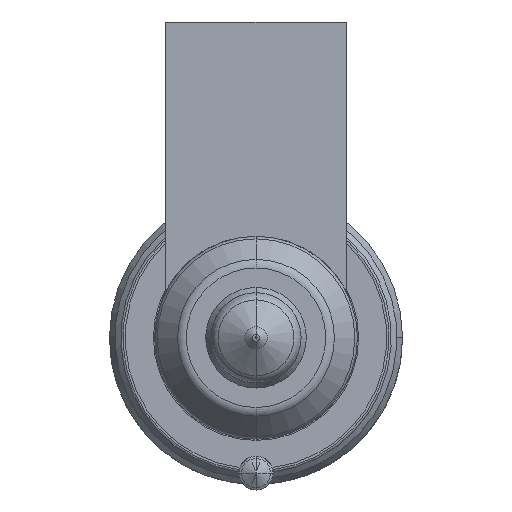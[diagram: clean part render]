
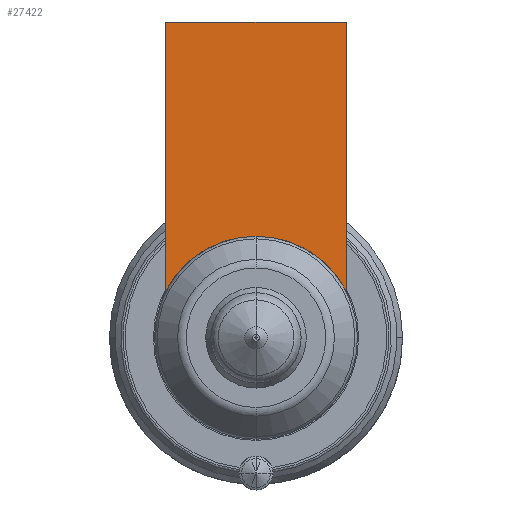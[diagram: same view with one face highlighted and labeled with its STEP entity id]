
A CAD part, front view. The second image highlights one B-rep face of the part: STEP entity #27422.
In plain terms, the highlighted planar face has unit normal (0, -1, 0).
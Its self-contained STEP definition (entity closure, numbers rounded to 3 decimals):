
#26609=DIRECTION('',(1.,0.,0.));
#26610=VECTOR('',#26609,16.);
#26611=CARTESIAN_POINT('',(-8.,-54.,28.));
#26612=LINE('',#26611,#26610);
#26617=CARTESIAN_POINT('',(0.,-54.,0.));
#26618=DIRECTION('',(0.,-1.,0.));
#26619=DIRECTION('',(0.889,0.,0.458));
#26620=AXIS2_PLACEMENT_3D('',#26617,#26618,#26619);
#26625=CARTESIAN_POINT('',(0.,-54.,0.));
#26626=DIRECTION('',(0.,-1.,0.));
#26627=DIRECTION('',(0.,0.,1.));
#26628=AXIS2_PLACEMENT_3D('',#26625,#26626,#26627);
#26654=DIRECTION('',(0.,0.,-1.));
#26655=VECTOR('',#26654,23.877);
#26656=CARTESIAN_POINT('',(-8.,-54.,28.));
#26657=LINE('',#26656,#26655);
#27274=DIRECTION('',(0.,0.,-1.));
#27275=VECTOR('',#27274,23.877);
#27276=CARTESIAN_POINT('',(8.,-54.,28.));
#27277=LINE('',#27276,#27275);
#27327=CARTESIAN_POINT('',(-8.,-54.,28.));
#27328=VERTEX_POINT('',#27327);
#27333=CARTESIAN_POINT('',(8.,-54.,28.));
#27334=VERTEX_POINT('',#27333);
#27337=CARTESIAN_POINT('',(-8.,-54.,4.123));
#27338=VERTEX_POINT('',#27337);
#27341=CARTESIAN_POINT('',(8.,-54.,4.123));
#27342=VERTEX_POINT('',#27341);
#27403=CARTESIAN_POINT('',(0.,-54.,9.));
#27404=VERTEX_POINT('',#27403);
#27405=CARTESIAN_POINT('',(0.,-54.,9.));
#27406=DIRECTION('',(0.,1.,0.));
#27407=DIRECTION('',(0.,0.,-1.));
#27408=AXIS2_PLACEMENT_3D('',#27405,#27406,#27407);
#27409=PLANE('',#27408);
#27411=ORIENTED_EDGE('',*,*,#27410,.F.);
#27413=ORIENTED_EDGE('',*,*,#27412,.T.);
#27415=ORIENTED_EDGE('',*,*,#27414,.T.);
#27417=ORIENTED_EDGE('',*,*,#27416,.T.);
#27419=ORIENTED_EDGE('',*,*,#27418,.T.);
#27420=EDGE_LOOP('',(#27411,#27413,#27415,#27417,#27419));
#27421=FACE_OUTER_BOUND('',#27420,.F.);
#27422=ADVANCED_FACE('',(#27421),#27409,.F.);
#26621=CIRCLE('',#26620,9.);
#26629=CIRCLE('',#26628,9.);
#27410=EDGE_CURVE('',#27328,#27338,#26657,.T.);
#27412=EDGE_CURVE('',#27328,#27334,#26612,.T.);
#27414=EDGE_CURVE('',#27334,#27342,#27277,.T.);
#27416=EDGE_CURVE('',#27342,#27404,#26621,.T.);
#27418=EDGE_CURVE('',#27404,#27338,#26629,.T.);
